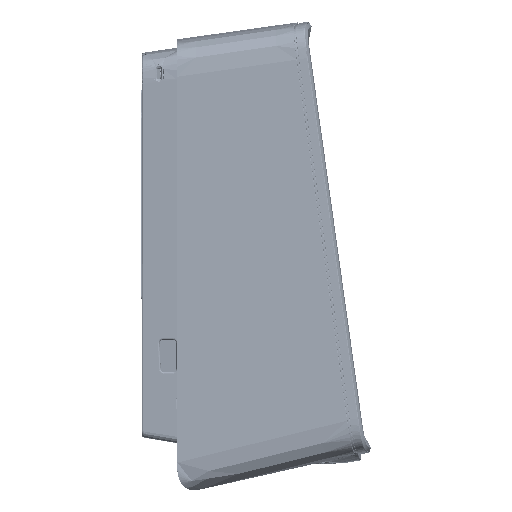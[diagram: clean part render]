
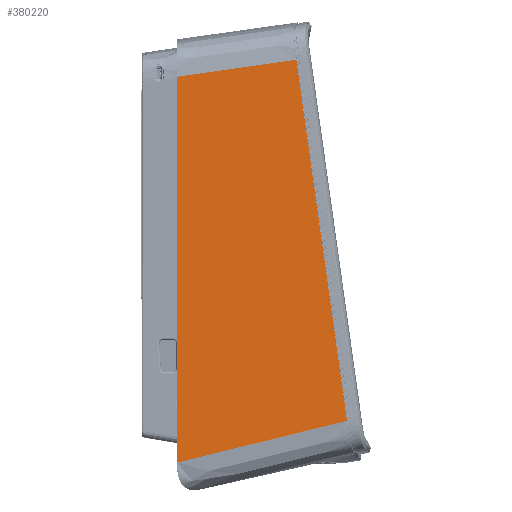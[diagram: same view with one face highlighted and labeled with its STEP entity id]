
A CAD part, front view. The second image highlights one B-rep face of the part: STEP entity #380220.
In plain terms, the highlighted planar face has unit normal (0.052, -0.999, 0.007).
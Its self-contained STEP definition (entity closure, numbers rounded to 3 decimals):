
#19670 = EDGE_LOOP ( 'NONE', ( #235174, #516626, #431719, #164477 ) ) ;
#19812 = CARTESIAN_POINT ( 'NONE',  ( 15., -59.923, 146.181 ) ) ;
#51695 = PLANE ( 'NONE',  #274284 ) ;
#58997 = CARTESIAN_POINT ( 'NONE',  ( 15., -61.598, -83.227 ) ) ;
#82294 = EDGE_CURVE ( 'NONE', #490413, #394775, #502796, .T. ) ;
#83393 = DIRECTION ( 'NONE',  ( 0.052, -0.999, 0.007 ) ) ;
#87783 = VERTEX_POINT ( 'NONE', #147055 ) ;
#104047 = DIRECTION ( 'NONE',  ( 0., 0.007, 1. ) ) ;
#125432 = DIRECTION ( 'NONE',  ( 0., -0.007, -1. ) ) ;
#135526 = CARTESIAN_POINT ( 'NONE',  ( 115.907, -56.173, -58.358 ) ) ;
#147055 = CARTESIAN_POINT ( 'NONE',  ( 85.737, -56.173, 156.316 ) ) ;
#151259 = CARTESIAN_POINT ( 'NONE',  ( 15., -59.844, 156.983 ) ) ;
#164477 = ORIENTED_EDGE ( 'NONE', *, *, #516208, .F. ) ;
#168517 = CARTESIAN_POINT ( 'NONE',  ( 115.907, -56.173, -58.358 ) ) ;
#175123 = LINE ( 'NONE', #295977, #380317 ) ;
#177601 = CARTESIAN_POINT ( 'NONE',  ( 85.737, -56.173, 156.316 ) ) ;
#180307 = DIRECTION ( 'NONE',  ( -0.139, 0., 0.99 ) ) ;
#180359 = VERTEX_POINT ( 'NONE', #457649 ) ;
#185531 = LINE ( 'NONE', #151259, #520473 ) ;
#235174 = ORIENTED_EDGE ( 'NONE', *, *, #82294, .T. ) ;
#274284 = AXIS2_PLACEMENT_3D ( 'NONE', #325115, #83393, #125432 ) ;
#293210 = CARTESIAN_POINT ( 'NONE',  ( 15., -61.598, -83.227 ) ) ;
#295977 = CARTESIAN_POINT ( 'NONE',  ( 115.905, -56.173, -58.341 ) ) ;
#325115 = CARTESIAN_POINT ( 'NONE',  ( 87.046, -56.1, 156.956 ) ) ;
#330044 = CARTESIAN_POINT ( 'NONE',  ( 62.217, -57.42, 152.949 ) ) ;
#337855 = CARTESIAN_POINT ( 'NONE',  ( 38.638, -58.67, 149.571 ) ) ;
#379876 = CARTESIAN_POINT ( 'NONE',  ( 48.759, -59.783, -74.913 ) ) ;
#380220 = ADVANCED_FACE ( 'NONE', ( #411766 ), #51695, .T. ) ;
#380317 = VECTOR ( 'NONE', #180307, 1000. ) ;
#389755 = B_SPLINE_CURVE_WITH_KNOTS ( 'NONE', 3,
 ( #177601, #330044, #337855, #19812 ),
 .UNSPECIFIED., .F., .F.,
 ( 4, 4 ),
 ( 0., 1. ),
 .UNSPECIFIED. ) ;
#394775 = VERTEX_POINT ( 'NONE', #168517 ) ;
#411766 = FACE_OUTER_BOUND ( 'NONE', #19670, .T. ) ;
#431719 = ORIENTED_EDGE ( 'NONE', *, *, #483725, .T. ) ;
#451675 = EDGE_CURVE ( 'NONE', #394775, #87783, #175123, .T. ) ;
#457649 = CARTESIAN_POINT ( 'NONE',  ( 15., -59.923, 146.181 ) ) ;
#483725 = EDGE_CURVE ( 'NONE', #87783, #180359, #389755, .T. ) ;
#490413 = VERTEX_POINT ( 'NONE', #58997 ) ;
#495588 = CARTESIAN_POINT ( 'NONE',  ( 82.395, -57.975, -66.623 ) ) ;
#502796 = B_SPLINE_CURVE_WITH_KNOTS ( 'NONE', 3,
 ( #293210, #379876, #495588, #135526 ),
 .UNSPECIFIED., .F., .F.,
 ( 4, 4 ),
 ( 0., 1. ),
 .UNSPECIFIED. ) ;
#516208 = EDGE_CURVE ( 'NONE', #490413, #180359, #185531, .T. ) ;
#516626 = ORIENTED_EDGE ( 'NONE', *, *, #451675, .T. ) ;
#520473 = VECTOR ( 'NONE', #104047, 1000. ) ;
